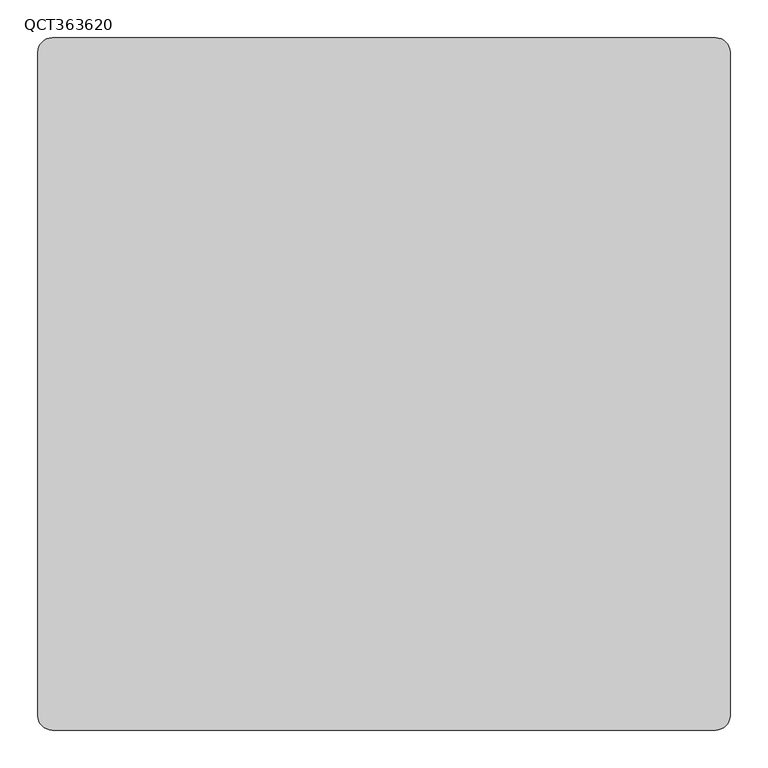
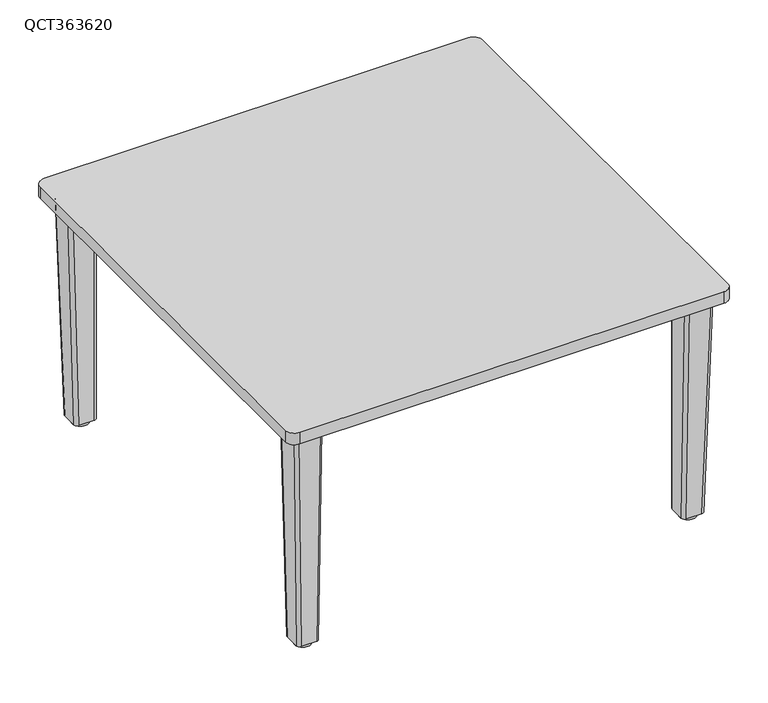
"""IFC4 building model written with IfcOpenShell, lengths in millimetres: furniture geometry, Leland-Quince-Table_Square : QCT363620."""

from ifc_helpers import new_model, si_unit, point, frame, frame_2d, origin, origin_with_axes, place, context, project, spatial, polyline, circle_curve, trimmed, segment, composite_curve, outline, extrude, source, transform, mapped, element, save
from ifc_brep_helpers import plane_surface, cylinder_surface, extruded_surface, advanced_brep


def qct363620_21aba500(model_context):
    return source(origin(), model_context, "Body", "SolidModel", [
        advanced_brep(
        [(426.2299122, -375.4482078, 477.8487443), (381.7799122, -375.4482078, 477.8487443), (375.4299122, -381.7982078, 477.8487443), (375.4299122, -426.2482078, 477.8487443), (381.7799122, -432.5982078, 477.8487443), (426.2299122, -432.5982078, 477.8487443), (432.5799122, -426.2482078, 477.8487443), (432.5799122, -381.7982078, 477.8487443), (413.9392552, -375.4482078, 9.5377), (420.2892552, -381.7982078, 9.5377), (420.2892552, -413.9651364, 9.5377), (413.9392552, -420.3151364, 9.5377), (381.7799122, -420.3151364, 9.5377), (375.4299122, -413.9651364, 9.5377), (375.4299122, -381.7982078, 9.5377), (381.7799122, -375.4482078, 9.5377)],
        [
            (0, 1),
            (1, 2, circle_curve(frame((381.7799122, -381.7982078, 477.8487443), z_axis=(0.0, 0.0, 1.0), x_axis=(-1.0, 0.0, 0.0)), 6.35)),
            (2, 3),
            (3, 4, circle_curve(frame((381.7799122, -426.2482078, 477.8487443), z_axis=(0.0, 0.0, 1.0), x_axis=(-1.0, 0.0, 0.0)), 6.35)),
            (4, 5),
            (5, 6, circle_curve(frame((426.2299122, -426.2482078, 477.8487443), z_axis=(0.0, 0.0, 1.0), x_axis=(-1.0, 0.0, 0.0)), 6.35)),
            (6, 7),
            (7, 0, circle_curve(frame((426.2299122, -381.7982078, 477.8487443), z_axis=(0.0, 0.0, 1.0), x_axis=(-1.0, 0.0, 0.0)), 6.35)),
            (8, 9, circle_curve(frame((413.9392552, -381.7982078, 9.5377), z_axis=(0.0, 0.0, -1.0), x_axis=(-1.0, 0.0, 0.0)), 6.35)),
            (9, 10),
            (10, 11, circle_curve(frame((413.9392552, -413.9651364, 9.5377), z_axis=(0.0, 0.0, -1.0), x_axis=(-1.0, 0.0, 0.0)), 6.35)),
            (11, 12),
            (12, 13, circle_curve(frame((381.7799122, -413.9651364, 9.5377), z_axis=(0.0, 0.0, -1.0), x_axis=(-1.0, 0.0, 0.0)), 6.35)),
            (13, 14),
            (14, 15, circle_curve(frame((381.7799122, -381.7982078, 9.5377), z_axis=(0.0, 0.0, -1.0), x_axis=(-1.0, 0.0, 0.0)), 6.35)),
            (15, 8),
            (8, 0),
            (7, 9),
            (6, 10),
            (5, 11),
            (4, 12),
            (3, 13),
            (2, 14),
            (1, 15),
        ],
        [
            plane_surface(frame((404.0049122, -404.0232078, 477.8487443), z_axis=(0.0, 0.0, 1.0), x_axis=(1.0, 0.0, 0.0))),
            plane_surface(frame((397.8595837, -397.8816721, 9.5377), z_axis=(0.0, 0.0, -1.0), x_axis=(1.0, 0.0, 0.0))),
            extruded_surface(trimmed(circle_curve(frame((413.9392552, -381.7982078, 9.5377), z_axis=(0.0, 0.0, 1.0), x_axis=(-1.0, 0.0, 0.0)), 6.35), [point((420.2892552, -381.7982078, 9.5377))], [point((413.9392552, -375.4482078, 9.5377))], True, "CARTESIAN"), (12.29065700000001, 0.0, 468.31104430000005), 468.47229850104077),
            plane_surface(frame((420.2892552, -397.8816721, 9.5377), z_axis=(0.9996557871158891, 0.0, -0.026235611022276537), x_axis=(0.0, 1.0, 0.0))),
            extruded_surface(trimmed(circle_curve(frame((413.9392552, -413.9651364, 9.5377), z_axis=(0.0, 0.0, 1.0), x_axis=(-1.0, 0.0, 0.0)), 6.35), [point((413.9392552, -420.3151364, 9.5377))], [point((420.2892552, -413.9651364, 9.5377))], True, "CARTESIAN"), (12.29065700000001, -12.283071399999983, 468.31104430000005), 468.63329833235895),
            plane_surface(frame((397.8595837, -420.3151364, 9.5377), z_axis=(0.0, -0.9996562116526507, -0.026219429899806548), x_axis=(1.0, 0.0, 0.0))),
            extruded_surface(trimmed(circle_curve(frame((381.7799122, -413.9651364, 9.5377), z_axis=(0.0, 0.0, 1.0), x_axis=(-1.0, 0.0, 0.0)), 6.35), [point((375.4299122, -413.9651364, 9.5377))], [point((381.7799122, -420.3151364, 9.5377))], True, "CARTESIAN"), (0.0, -12.283071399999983, 468.31104430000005), 468.47209954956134),
            plane_surface(frame((375.4299122, -397.8816721, 9.5377), z_axis=(-1.0, 0.0, 0.0), x_axis=(0.0, -1.0, 0.0))),
            cylinder_surface(frame((381.7799122, -381.7982078, 9.5377), z_axis=(0.0, 0.0, 1.0), x_axis=(-1.0, 0.0, 0.0)), 6.35),
            plane_surface(frame((397.8595837, -375.4482078, 9.5377), z_axis=(0.0, 1.0, 0.0), x_axis=(-1.0, 0.0, 0.0))),
        ],
        [
            (0, [[1, 2, 3, 4, 5, 6, 7, 8]]),
            (1, [[9, 10, 11, 12, 13, 14, 15, 16]]),
            (2, [[-9, 17, -8, 18]]),
            (3, [[-10, -18, -7, 19]]),
            (4, [[-11, -19, -6, 20]]),
            (5, [[-12, -20, -5, 21]]),
            (6, [[-13, -21, -4, 22]]),
            (7, [[-14, -22, -3, 23]]),
            (8, [[-15, -23, -2, 24]]),
            (9, [[-16, -24, -1, -17]]),
        ],
    ),
        advanced_brep(
        [(-426.2299122, -375.4482078, 477.8487443), (-432.5799122, -381.7982078, 477.8487443), (-432.5799122, -426.2482078, 477.8487443), (-426.2299122, -432.5982078, 477.8487443), (-381.7799122, -432.5982078, 477.8487443), (-375.4299122, -426.2482078, 477.8487443), (-375.4299122, -381.7982078, 477.8487443), (-381.7799122, -375.4482078, 477.8487443), (-413.9392552, -375.4482078, 9.5377), (-381.7799122, -375.4482078, 9.5377), (-375.4299122, -381.7982078, 9.5377), (-375.4299122, -413.9651364, 9.5377), (-381.7799122, -420.3151364, 9.5377), (-413.9392552, -420.3151364, 9.5377), (-420.2892552, -413.9651364, 9.5377), (-420.2892552, -381.7982078, 9.5377)],
        [
            (0, 1, circle_curve(frame((-426.2299122, -381.7982078, 477.8487443), z_axis=(0.0, 0.0, 1.0), x_axis=(1.0, 0.0, 0.0)), 6.35)),
            (1, 2),
            (2, 3, circle_curve(frame((-426.2299122, -426.2482078, 477.8487443), z_axis=(0.0, 0.0, 1.0), x_axis=(1.0, 0.0, 0.0)), 6.35)),
            (3, 4),
            (4, 5, circle_curve(frame((-381.7799122, -426.2482078, 477.8487443), z_axis=(0.0, 0.0, 1.0), x_axis=(1.0, 0.0, 0.0)), 6.35)),
            (5, 6),
            (6, 7, circle_curve(frame((-381.7799122, -381.7982078, 477.8487443), z_axis=(0.0, 0.0, 1.0), x_axis=(0.0, 1.0, 0.0)), 6.35)),
            (7, 0),
            (8, 9),
            (9, 10, circle_curve(frame((-381.7799122, -381.7982078, 9.5377), z_axis=(0.0, 0.0, -1.0), x_axis=(0.0, 1.0, 0.0)), 6.35)),
            (10, 11),
            (11, 12, circle_curve(frame((-381.7799122, -413.9651364, 9.5377), z_axis=(0.0, 0.0, -1.0), x_axis=(1.0, 0.0, 0.0)), 6.35)),
            (12, 13),
            (13, 14, circle_curve(frame((-413.9392552, -413.9651364, 9.5377), z_axis=(0.0, 0.0, -1.0), x_axis=(1.0, 0.0, 0.0)), 6.35)),
            (14, 15),
            (15, 8, circle_curve(frame((-413.9392552, -381.7982078, 9.5377), z_axis=(0.0, 0.0, -1.0), x_axis=(1.0, 0.0, 0.0)), 6.35)),
            (15, 1),
            (0, 8),
            (14, 2),
            (13, 3),
            (12, 4),
            (11, 5),
            (10, 6),
            (9, 7),
        ],
        [
            plane_surface(frame((-404.0049122, -404.0232078, 477.8487443), z_axis=(0.0, 0.0, 1.0), x_axis=(1.0, 0.0, 0.0))),
            plane_surface(frame((-397.8595837, -397.8816721, 9.5377), z_axis=(0.0, 0.0, -1.0), x_axis=(1.0, 0.0, 0.0))),
            extruded_surface(trimmed(circle_curve(frame((-413.9392552, -381.7982078, 9.5377), z_axis=(0.0, 0.0, 1.0), x_axis=(1.0, 0.0, 0.0)), 6.35), [point((-413.9392552, -375.4482078, 9.5377))], [point((-420.2892552, -381.7982078, 9.5377))], True, "CARTESIAN"), (-12.29065700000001, 0.0, 468.31104430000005), 468.47229850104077),
            plane_surface(frame((-420.2892552, -397.8816721, 9.5377), z_axis=(-0.9996557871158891, 0.0, -0.026235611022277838), x_axis=(0.0, -1.0, 0.0))),
            extruded_surface(trimmed(circle_curve(frame((-413.9392552, -413.9651364, 9.5377), z_axis=(0.0, 0.0, 1.0), x_axis=(1.0, 0.0, 0.0)), 6.35), [point((-420.2892552, -413.9651364, 9.5377))], [point((-413.9392552, -420.3151364, 9.5377))], True, "CARTESIAN"), (-12.29065700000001, -12.283071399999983, 468.31104430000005), 468.63329833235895),
            plane_surface(frame((-397.8595837, -420.3151364, 9.5377), z_axis=(0.0, -0.9996562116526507, -0.026219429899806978), x_axis=(1.0, 0.0, 0.0))),
            extruded_surface(trimmed(circle_curve(frame((-381.7799122, -413.9651364, 9.5377), z_axis=(0.0, 0.0, 1.0), x_axis=(1.0, 0.0, 0.0)), 6.35), [point((-381.7799122, -420.3151364, 9.5377))], [point((-375.4299122, -413.9651364, 9.5377))], True, "CARTESIAN"), (0.0, -12.283071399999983, 468.31104430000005), 468.47209954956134),
            plane_surface(frame((-375.4299122, -397.8816721, 9.5377), z_axis=(1.0, 0.0, 0.0), x_axis=(0.0, 1.0, 0.0))),
            cylinder_surface(frame((-381.7799122, -381.7982078, 9.5377), z_axis=(0.0, 0.0, 1.0), x_axis=(0.0, 1.0, 0.0)), 6.35),
            plane_surface(frame((-397.8595837, -375.4482078, 9.5377), z_axis=(0.0, 1.0, 0.0), x_axis=(-1.0, 0.0, 0.0))),
        ],
        [
            (0, [[1, 2, 3, 4, 5, 6, 7, 8]]),
            (1, [[9, 10, 11, 12, 13, 14, 15, 16]]),
            (2, [[-16, 17, -1, 18]]),
            (3, [[-15, 19, -2, -17]]),
            (4, [[-14, 20, -3, -19]]),
            (5, [[-13, 21, -4, -20]]),
            (6, [[-12, 22, -5, -21]]),
            (7, [[-11, 23, -6, -22]]),
            (8, [[-10, 24, -7, -23]]),
            (9, [[-9, -18, -8, -24]]),
        ],
    ),
        advanced_brep(
        [(426.2299122, 375.4482078, 477.8487443), (432.5799122, 381.7982078, 477.8487443), (432.5799122, 426.2482078, 477.8487443), (426.2299122, 432.5982078, 477.8487443), (381.7799122, 432.5982078, 477.8487443), (375.4299122, 426.2482078, 477.8487443), (375.4299122, 381.7982078, 477.8487443), (381.7799122, 375.4482078, 477.8487443), (413.9392552, 375.4482078, 9.5377), (381.7799122, 375.4482078, 9.5377), (375.4299122, 381.7982078, 9.5377), (375.4299122, 413.9651364, 9.5377), (381.7799122, 420.3151364, 9.5377), (413.9392552, 420.3151364, 9.5377), (420.2892552, 413.9651364, 9.5377), (420.2892552, 381.7982078, 9.5377)],
        [
            (0, 1, circle_curve(frame((426.2299122, 381.7982078, 477.8487443), z_axis=(0.0, 0.0, 1.0), x_axis=(-1.0, 0.0, 0.0)), 6.35)),
            (1, 2),
            (2, 3, circle_curve(frame((426.2299122, 426.2482078, 477.8487443), z_axis=(0.0, 0.0, 1.0), x_axis=(-1.0, 0.0, 0.0)), 6.35)),
            (3, 4),
            (4, 5, circle_curve(frame((381.7799122, 426.2482078, 477.8487443), z_axis=(0.0, 0.0, 1.0), x_axis=(-1.0, 0.0, 0.0)), 6.35)),
            (5, 6),
            (6, 7, circle_curve(frame((381.7799122, 381.7982078, 477.8487443), z_axis=(0.0, 0.0, 1.0), x_axis=(0.0, -1.0, 0.0)), 6.35)),
            (7, 0),
            (8, 9),
            (9, 10, circle_curve(frame((381.7799122, 381.7982078, 9.5377), z_axis=(0.0, 0.0, -1.0), x_axis=(0.0, -1.0, 0.0)), 6.35)),
            (10, 11),
            (11, 12, circle_curve(frame((381.7799122, 413.9651364, 9.5377), z_axis=(0.0, 0.0, -1.0), x_axis=(-1.0, 0.0, 0.0)), 6.35)),
            (12, 13),
            (13, 14, circle_curve(frame((413.9392552, 413.9651364, 9.5377), z_axis=(0.0, 0.0, -1.0), x_axis=(-1.0, 0.0, 0.0)), 6.35)),
            (14, 15),
            (15, 8, circle_curve(frame((413.9392552, 381.7982078, 9.5377), z_axis=(0.0, 0.0, -1.0), x_axis=(-1.0, 0.0, 0.0)), 6.35)),
            (15, 1),
            (0, 8),
            (14, 2),
            (13, 3),
            (12, 4),
            (11, 5),
            (10, 6),
            (9, 7),
        ],
        [
            plane_surface(frame((404.0049122, 404.0232078, 477.8487443), z_axis=(0.0, 0.0, 1.0), x_axis=(-1.0, 0.0, 0.0))),
            plane_surface(frame((397.8595837, 397.8816721, 9.5377), z_axis=(0.0, 0.0, -1.0), x_axis=(-1.0, 0.0, 0.0))),
            extruded_surface(trimmed(circle_curve(frame((413.9392552, 381.7982078, 9.5377), z_axis=(0.0, 0.0, 1.0), x_axis=(-1.0, 0.0, 0.0)), 6.35), [point((413.9392552, 375.4482078, 9.5377))], [point((420.2892552, 381.7982078, 9.5377))], True, "CARTESIAN"), (12.29065700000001, 0.0, 468.31104430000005), 468.47229850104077),
            plane_surface(frame((420.2892552, 397.8816721, 9.5377), z_axis=(0.9996557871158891, 0.0, -0.02623561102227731), x_axis=(0.0, 1.0, 0.0))),
            extruded_surface(trimmed(circle_curve(frame((413.9392552, 413.9651364, 9.5377), z_axis=(0.0, 0.0, 1.0), x_axis=(-1.0, 0.0, 0.0)), 6.35), [point((420.2892552, 413.9651364, 9.5377))], [point((413.9392552, 420.3151364, 9.5377))], True, "CARTESIAN"), (12.29065700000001, 12.283071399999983, 468.31104430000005), 468.63329833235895),
            plane_surface(frame((397.8595837, 420.3151364, 9.5377), z_axis=(0.0, 0.9996562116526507, -0.026219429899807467), x_axis=(-1.0, 0.0, 0.0))),
            extruded_surface(trimmed(circle_curve(frame((381.7799122, 413.9651364, 9.5377), z_axis=(0.0, 0.0, 1.0), x_axis=(-1.0, 0.0, 0.0)), 6.35), [point((381.7799122, 420.3151364, 9.5377))], [point((375.4299122, 413.9651364, 9.5377))], True, "CARTESIAN"), (0.0, 12.283071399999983, 468.31104430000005), 468.47209954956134),
            plane_surface(frame((375.4299122, 397.8816721, 9.5377), z_axis=(-1.0, 0.0, 0.0), x_axis=(0.0, -1.0, 0.0))),
            cylinder_surface(frame((381.7799122, 381.7982078, 9.5377), z_axis=(0.0, 0.0, 1.0), x_axis=(0.0, -1.0, 0.0)), 6.35),
            plane_surface(frame((397.8595837, 375.4482078, 9.5377), z_axis=(0.0, -1.0, 0.0), x_axis=(1.0, 0.0, 0.0))),
        ],
        [
            (0, [[1, 2, 3, 4, 5, 6, 7, 8]]),
            (1, [[9, 10, 11, 12, 13, 14, 15, 16]]),
            (2, [[-16, 17, -1, 18]]),
            (3, [[-15, 19, -2, -17]]),
            (4, [[-14, 20, -3, -19]]),
            (5, [[-13, 21, -4, -20]]),
            (6, [[-12, 22, -5, -21]]),
            (7, [[-11, 23, -6, -22]]),
            (8, [[-10, 24, -7, -23]]),
            (9, [[-9, -18, -8, -24]]),
        ],
    ),
        extrude(outline(composite_curve([segment(trimmed(circle_curve(frame_2d((-397.8595837, 397.8816721)), 16.66875), [point((-414.5283337, 397.8816721))], [point((-381.1908337, 397.8816721))], False, "CARTESIAN"), True, "CONTINUOUS"), segment(trimmed(circle_curve(frame_2d((-397.8595837, 397.8816721)), 16.66875), [point((-381.1908337, 397.8816721))], [point((-414.5283337, 397.8816721))], False, "CARTESIAN"), True, "CONTINUOUS")], self_intersect=False)), origin_with_axes(), (0.0, 0.0, 1.0), 9.5377),
        extrude(outline(composite_curve([segment(trimmed(circle_curve(frame_2d((397.8595837, 397.8816721)), 16.66875), [point((381.1908337, 397.8816721))], [point((414.5283337, 397.8816721))], False, "CARTESIAN"), True, "CONTINUOUS"), segment(trimmed(circle_curve(frame_2d((397.8595837, 397.8816721)), 16.66875), [point((414.5283337, 397.8816721))], [point((381.1908337, 397.8816721))], False, "CARTESIAN"), True, "CONTINUOUS")], self_intersect=False)), origin_with_axes(), (0.0, 0.0, 1.0), 9.5377),
        extrude(outline(composite_curve([segment(trimmed(circle_curve(frame_2d((-397.8595837, -397.8816721)), 16.66875), [point((-414.5283337, -397.8816721))], [point((-381.1908337, -397.8816721))], False, "CARTESIAN"), True, "CONTINUOUS"), segment(trimmed(circle_curve(frame_2d((-397.8595837, -397.8816721)), 16.66875), [point((-381.1908337, -397.8816721))], [point((-414.5283337, -397.8816721))], False, "CARTESIAN"), True, "CONTINUOUS")], self_intersect=False)), origin_with_axes(), (0.0, 0.0, 1.0), 9.5377),
        extrude(outline(composite_curve([segment(trimmed(circle_curve(frame_2d((397.8595837, -397.8816721)), 16.66875), [point((381.1908337, -397.8816721))], [point((414.5283337, -397.8816721))], False, "CARTESIAN"), True, "CONTINUOUS"), segment(trimmed(circle_curve(frame_2d((397.8595837, -397.8816721)), 16.66875), [point((414.5283337, -397.8816721))], [point((381.1908337, -397.8816721))], False, "CARTESIAN"), True, "CONTINUOUS")], self_intersect=False)), origin_with_axes(), (0.0, 0.0, 1.0), 9.5377),
        extrude(outline(polyline([(-327.81875, 429.41875), (-327.81875, 327.81875), (-429.41875, 327.81875), (-429.41875, 429.41875), (-327.81875, 429.41875)])), frame((0.0, 0.0, 477.8487443), z_axis=(0.0, 0.0, 1.0), x_axis=(1.0, 0.0, 0.0)), (0.0, 0.0, 1.0), 4.7625),
        extrude(outline(polyline([(327.81875, 429.41875), (429.41875, 429.41875), (429.41875, 327.81875), (327.81875, 327.81875), (327.81875, 429.41875)])), frame((0.0, 0.0, 477.8487443), z_axis=(0.0, 0.0, 1.0), x_axis=(1.0, 0.0, 0.0)), (0.0, 0.0, 1.0), 4.7625),
        extrude(outline(polyline([(-327.81875, -429.41875), (-429.41875, -429.41875), (-429.41875, -327.81875), (-327.81875, -327.81875), (-327.81875, -429.41875)])), frame((0.0, 0.0, 477.8487443), z_axis=(0.0, 0.0, 1.0), x_axis=(1.0, 0.0, 0.0)), (0.0, 0.0, 1.0), 4.7625),
        extrude(outline(polyline([(327.81875, -429.41875), (327.81875, -327.81875), (429.41875, -327.81875), (429.41875, -429.41875), (327.81875, -429.41875)])), frame((0.0, 0.0, 477.8487443), z_axis=(0.0, 0.0, 1.0), x_axis=(1.0, 0.0, 0.0)), (0.0, 0.0, 1.0), 4.7625),
        advanced_brep(
        [(-426.2299122, 375.4482078, 477.8487443), (-381.7799122, 375.4482078, 477.8487443), (-375.4299122, 381.7982078, 477.8487443), (-375.4299122, 426.2482078, 477.8487443), (-381.7799122, 432.5982078, 477.8487443), (-426.2299122, 432.5982078, 477.8487443), (-432.5799122, 426.2482078, 477.8487443), (-432.5799122, 381.7982078, 477.8487443), (-413.9392552, 375.4482078, 9.5377), (-420.2892552, 381.7982078, 9.5377), (-420.2892552, 413.9651364, 9.5377), (-413.9392552, 420.3151364, 9.5377), (-381.7799122, 420.3151364, 9.5377), (-375.4299122, 413.9651364, 9.5377), (-375.4299122, 381.7982078, 9.5377), (-381.7799122, 375.4482078, 9.5377)],
        [
            (0, 1),
            (1, 2, circle_curve(frame((-381.7799122, 381.7982078, 477.8487443), z_axis=(0.0, 0.0, 1.0), x_axis=(1.0, 0.0, 0.0)), 6.35)),
            (2, 3),
            (3, 4, circle_curve(frame((-381.7799122, 426.2482078, 477.8487443), z_axis=(0.0, 0.0, 1.0), x_axis=(1.0, 0.0, 0.0)), 6.35)),
            (4, 5),
            (5, 6, circle_curve(frame((-426.2299122, 426.2482078, 477.8487443), z_axis=(0.0, 0.0, 1.0), x_axis=(1.0, 0.0, 0.0)), 6.35)),
            (6, 7),
            (7, 0, circle_curve(frame((-426.2299122, 381.7982078, 477.8487443), z_axis=(0.0, 0.0, 1.0), x_axis=(1.0, 0.0, 0.0)), 6.35)),
            (8, 9, circle_curve(frame((-413.9392552, 381.7982078, 9.5377), z_axis=(0.0, 0.0, -1.0), x_axis=(1.0, 0.0, 0.0)), 6.35)),
            (9, 10),
            (10, 11, circle_curve(frame((-413.9392552, 413.9651364, 9.5377), z_axis=(0.0, 0.0, -1.0), x_axis=(1.0, 0.0, 0.0)), 6.35)),
            (11, 12),
            (12, 13, circle_curve(frame((-381.7799122, 413.9651364, 9.5377), z_axis=(0.0, 0.0, -1.0), x_axis=(1.0, 0.0, 0.0)), 6.35)),
            (13, 14),
            (14, 15, circle_curve(frame((-381.7799122, 381.7982078, 9.5377), z_axis=(0.0, 0.0, -1.0), x_axis=(1.0, 0.0, 0.0)), 6.35)),
            (15, 8),
            (8, 0),
            (7, 9),
            (6, 10),
            (5, 11),
            (4, 12),
            (3, 13),
            (2, 14),
            (1, 15),
        ],
        [
            plane_surface(frame((-404.0049122, 404.0232078, 477.8487443), z_axis=(0.0, 0.0, 1.0), x_axis=(-1.0, 0.0, 0.0))),
            plane_surface(frame((-397.8595837, 397.8816721, 9.5377), z_axis=(0.0, 0.0, -1.0), x_axis=(-1.0, 0.0, 0.0))),
            extruded_surface(trimmed(circle_curve(frame((-413.9392552, 381.7982078, 9.5377), z_axis=(0.0, 0.0, 1.0), x_axis=(1.0, 0.0, 0.0)), 6.35), [point((-420.2892552, 381.7982078, 9.5377))], [point((-413.9392552, 375.4482078, 9.5377))], True, "CARTESIAN"), (-12.29065700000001, 0.0, 468.31104430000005), 468.47229850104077),
            plane_surface(frame((-420.2892552, 397.8816721, 9.5377), z_axis=(-0.9996557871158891, 0.0, -0.02623561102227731), x_axis=(0.0, -1.0, 0.0))),
            extruded_surface(trimmed(circle_curve(frame((-413.9392552, 413.9651364, 9.5377), z_axis=(0.0, 0.0, 1.0), x_axis=(1.0, 0.0, 0.0)), 6.35), [point((-413.9392552, 420.3151364, 9.5377))], [point((-420.2892552, 413.9651364, 9.5377))], True, "CARTESIAN"), (-12.29065700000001, 12.283071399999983, 468.31104430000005), 468.63329833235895),
            plane_surface(frame((-397.8595837, 420.3151364, 9.5377), z_axis=(0.0, 0.9996562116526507, -0.026219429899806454), x_axis=(-1.0, 0.0, 0.0))),
            extruded_surface(trimmed(circle_curve(frame((-381.7799122, 413.9651364, 9.5377), z_axis=(0.0, 0.0, 1.0), x_axis=(1.0, 0.0, 0.0)), 6.35), [point((-375.4299122, 413.9651364, 9.5377))], [point((-381.7799122, 420.3151364, 9.5377))], True, "CARTESIAN"), (0.0, 12.283071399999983, 468.31104430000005), 468.47209954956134),
            plane_surface(frame((-375.4299122, 397.8816721, 9.5377), z_axis=(1.0, 0.0, 0.0), x_axis=(0.0, 1.0, 0.0))),
            cylinder_surface(frame((-381.7799122, 381.7982078, 9.5377), z_axis=(0.0, 0.0, 1.0), x_axis=(1.0, 0.0, 0.0)), 6.35),
            plane_surface(frame((-397.8595837, 375.4482078, 9.5377), z_axis=(0.0, -1.0, 0.0), x_axis=(1.0, 0.0, 0.0))),
        ],
        [
            (0, [[1, 2, 3, 4, 5, 6, 7, 8]]),
            (1, [[9, 10, 11, 12, 13, 14, 15, 16]]),
            (2, [[-9, 17, -8, 18]]),
            (3, [[-10, -18, -7, 19]]),
            (4, [[-11, -19, -6, 20]]),
            (5, [[-12, -20, -5, 21]]),
            (6, [[-13, -21, -4, 22]]),
            (7, [[-14, -22, -3, 23]]),
            (8, [[-15, -23, -2, 24]]),
            (9, [[-16, -24, -1, -17]]),
        ],
    ),
        extrude(outline(composite_curve([segment(trimmed(circle_curve(frame_2d((438.15, 438.15)), 19.05), [point((438.15, 457.2))], [point((457.2, 438.15))], False, "CARTESIAN"), True, "CONTINUOUS"), segment(polyline([(457.2, 438.15), (457.2, -438.15)]), True, "CONTINUOUS"), segment(trimmed(circle_curve(frame_2d((438.15, -438.15)), 19.05), [point((457.2, -438.15))], [point((438.15, -457.2))], False, "CARTESIAN"), True, "CONTINUOUS"), segment(polyline([(438.15, -457.2), (-438.15, -457.2)]), True, "CONTINUOUS"), segment(trimmed(circle_curve(frame_2d((-438.15, -438.15)), 19.05), [point((-438.15, -457.2))], [point((-457.2, -438.15))], False, "CARTESIAN"), True, "CONTINUOUS"), segment(polyline([(-457.2, -438.15), (-457.2, 438.15)]), True, "CONTINUOUS"), segment(trimmed(circle_curve(frame_2d((-438.15, 438.15)), 19.05), [point((-457.2, 438.15))], [point((-438.15, 457.2))], False, "CARTESIAN"), True, "CONTINUOUS"), segment(polyline([(-438.15, 457.2), (438.15, 457.2)]), True, "CONTINUOUS")], self_intersect=False)), frame((0.0, 0.0, 482.6112443), z_axis=(0.0, 0.0, 1.0), x_axis=(1.0, 0.0, 0.0)), (0.0, 0.0, 1.0), 25.3887557),
    ])


if __name__ == "__main__":
    model = new_model("IFC4")
    model_context = context("Model", 3, world=origin())
    ifc_project = project(units=[si_unit("LENGTHUNIT", "METRE", prefix="MILLI")], contexts=[model_context])
    site = spatial("IfcSite", under=ifc_project)
    building = spatial("IfcBuilding", under=site)
    placement = place(None, origin())
    qct363620_shape = qct363620_21aba500(model_context)
    element("IfcFurniture", 1, ObjectType="Leland-Quince-Table_Square : QCT363620", at=placement, inside=building, context=model_context, shape_type="MappedRepresentation", body=[
        mapped(qct363620_shape, transform((0.0, 0.0, 0.0), x_axis=(1.0, 0.0, 0.0), y_axis=(0.0, 1.0, 0.0), z_axis=(0.0, 0.0, 1.0))),
    ])
    save(model, "model.ifc")
